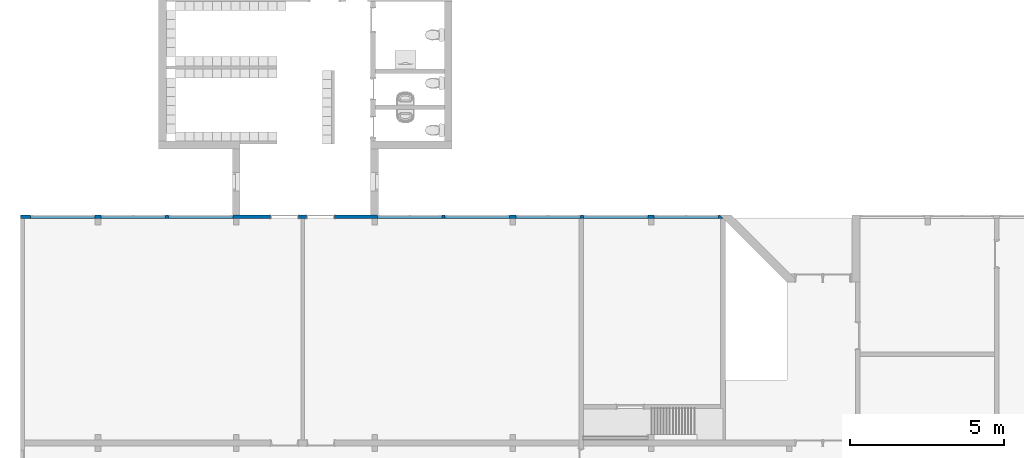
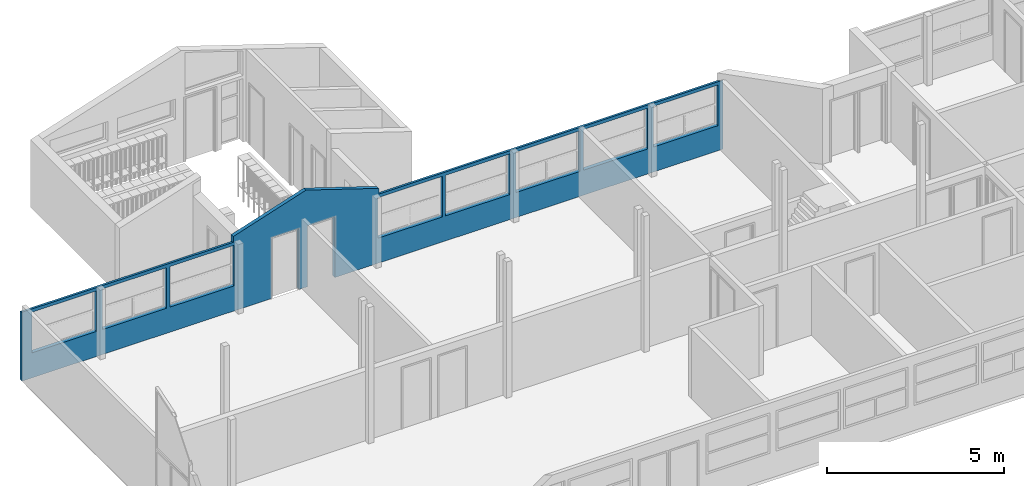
# One storey, part 15 of 48: 1 wall, 10 openings.
"""IFC2X3 building model written with IfcOpenShell, lengths in millimetres."""

from ifc_helpers import new_model, entity, si_unit, converted_unit, derived_unit, money_unit, direction, frame, origin_with_axes, place, context, subcontext, project, spatial, faceted_brep, material, type_object, element, save


model = new_model("IFC2X3")

# Units and contexts
model_context = context("Model", 3, precision=0.01, world=origin_with_axes(), true_north=direction((0.0, 1.0)))
body_context = subcontext(model_context, "Body", "Model", "MODEL_VIEW")
ifc_project = project(units=[si_unit("LENGTHUNIT", "METRE", prefix="MILLI"), si_unit("AREAUNIT", "SQUARE_METRE"), si_unit("VOLUMEUNIT", "CUBIC_METRE"), converted_unit("PLANEANGLEUNIT", "DEGREE", entity("IfcPlaneAngleMeasure", 0.0174532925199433), si_unit("PLANEANGLEUNIT", "RADIAN"), dimensions=[0, 0, 0, 0, 0, 0, 0]), money_unit("USD"), converted_unit("TIMEUNIT", "Year", entity("IfcTimeMeasure", 31557600.0), si_unit("TIMEUNIT", "SECOND"), dimensions=[0, 0, 1, 0, 0, 0, 0]), si_unit("MASSUNIT", "GRAM", prefix="KILO"), si_unit("THERMODYNAMICTEMPERATUREUNIT", "DEGREE_CELSIUS"), si_unit("LUMINOUSINTENSITYUNIT", "LUMEN"), si_unit("ENERGYUNIT", "JOULE", prefix="MEGA"), derived_unit("THERMALCONDUCTANCEUNIT", [(si_unit("POWERUNIT", "WATT"), 1), (si_unit("LENGTHUNIT", "METRE"), -1), (si_unit("THERMODYNAMICTEMPERATUREUNIT", "KELVIN"), -1)]), derived_unit("SPECIFICHEATCAPACITYUNIT", [(si_unit("ENERGYUNIT", "JOULE"), 1), (si_unit("MASSUNIT", "GRAM", prefix="KILO"), -1), (si_unit("THERMODYNAMICTEMPERATUREUNIT", "KELVIN"), -1)]), derived_unit("MASSDENSITYUNIT", [(si_unit("MASSUNIT", "GRAM", prefix="KILO"), 1), (si_unit("VOLUMEUNIT", "CUBIC_METRE"), -1)])], contexts=[model_context])

# Site, building, storey
site_placement = place(None, origin_with_axes())
site = spatial("IfcSite", under=ifc_project, at=site_placement, Name="Site", CompositionType="ELEMENT")
building_placement = place(site_placement, origin_with_axes())
building = spatial("IfcBuilding", under=site, at=building_placement, Name="Building", CompositionType="ELEMENT")
storey_placement = place(building_placement, frame((0.0, 0.0, 3300.0), z_axis=(0.0, 0.0, 1.0), x_axis=(1.0, 0.0, 0.0)))
storey = spatial("IfcBuildingStorey", under=building, at=storey_placement, Name="1 ETG", CompositionType="ELEMENT", Elevation=3300.0)

# Wall, openings
ifc_material = material(Name="GENERIC - STRUCTURAL")
wall_type = type_object("IfcWallType", Name="GENERIC - STRUCTURAL 120", PredefinedType="NOTDEFINED")
wall_placement = place(storey_placement, frame((-2400.26057248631, 21800.00030057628, 0.0), z_axis=(0.0, 0.0, 1.0), x_axis=(0.9999999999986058, -1.669870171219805e-06, 0.0)))
wall = element("IfcWall", 1, at=wall_placement, inside=storey, type_object=wall_type, material=ifc_material, Name="SW - 001", context=body_context, shape_type="Brep", body=[
    faceted_brep([(8020.72027930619, 120.0000000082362, 2100.0), (8020.72027930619, 120.000000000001, 0.0), (-120.0002003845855, 120.000000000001, 0.0), (-120.0002003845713, 120.000000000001, 2340.152322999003), (6775.260372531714, 120.0000000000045, 2340.156060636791), (6775.260372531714, 120.0000000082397, 2577.639475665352), (9150.260760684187, 120.0000000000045, 3349.323880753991), (11525.26115243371, 120.0000000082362, 2577.639475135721), (11525.26115235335, 120.000000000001, 2340.158635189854), (22637.08580500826, 120.000000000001, 2340.164657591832), (22637.08580500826, 120.000000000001, 0.0), (10089.43274139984, 120.000000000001, 0.0), (10089.43274139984, 120.0000000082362, 2100.0), (9189.43274139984, 120.0000000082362, 2100.0), (9189.43274139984, 120.000000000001, 0.0), (8920.72027930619, 120.000000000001, 0.0), (8920.72027930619, 120.0000000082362, 2100.0), (6800.260572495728, 120.000000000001, 865.018749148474), (6800.260572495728, 120.000000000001, 2265.018749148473), (4700.260572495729, 120.0000000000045, 2265.018749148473), (4700.260572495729, 120.0000000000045, 865.018749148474), (2500.260572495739, 120.000000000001, 865.018749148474), (4600.260572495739, 120.000000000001, 865.018749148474), (4600.260572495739, 120.000000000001, 2265.018749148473), (2500.260572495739, 120.000000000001, 2265.018749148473), (200.2605724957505, 120.0000000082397, 2265.018749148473), (200.2605724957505, 120.0000000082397, 865.018749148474), (2300.260572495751, 120.0000000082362, 865.018749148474), (2300.260572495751, 120.0000000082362, 2265.018749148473), (15800.2605725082, 120.000000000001, 2265.018749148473), (13700.2605725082, 120.0000000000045, 2265.018749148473), (13700.2605725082, 120.0000000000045, 865.018749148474), (15800.2605725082, 120.000000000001, 865.018749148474), (13600.2605725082, 120.000000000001, 865.018749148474), (13600.2605725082, 120.000000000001, 2265.018749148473), (11500.2605725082, 120.000000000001, 2265.018749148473), (11500.2605725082, 120.000000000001, 865.018749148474), (16000.26057250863, 120.0000000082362, 865.018749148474), (18100.26057250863, 120.0000000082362, 865.018749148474), (18100.26057250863, 120.0000000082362, 2265.018749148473), (16000.26057250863, 120.0000000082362, 2265.018749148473), (18200.26057251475, 120.0000000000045, 2265.018749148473), (18200.26057251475, 120.0000000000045, 865.018749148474), (20300.26057251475, 120.000000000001, 865.018749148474), (20300.26057251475, 120.000000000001, 2265.018749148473), (22600.26057251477, 120.000000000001, 2265.018749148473), (20500.26057251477, 120.000000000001, 2265.018749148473), (20500.26057251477, 120.000000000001, 865.018749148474), (22600.26057251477, 120.000000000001, 865.018749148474), (8020.72027930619, 0.0, 2100.0), (8020.72027930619, 0.0, 0.0), (-120.0000000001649, 0.0, 0.0), (-120.0000000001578, 0.0, 2379.102255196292), (6775.260572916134, 0.0, 2379.105992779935), (6775.260572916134, 0.0, 2577.639475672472), (6775.260512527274, 36.16380562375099, 2577.639475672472), (9150.260961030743, 0.0, 3349.323880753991), (11525.26135281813, 0.0, 2577.639475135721), (11525.26129241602, 36.17173916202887, 2577.639475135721), (11525.26135275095, 0.0, 2379.108567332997), (22757.08620577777, 0.0, 2379.114654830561), (22757.08620577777, 0.0, 0.0), (10089.43274139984, 0.0, 0.0), (10089.43274139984, 0.0, 2100.0), (9189.432741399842, 0.0, 2100.0), (9189.432741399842, 0.0, 0.0), (8920.72027930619, 0.0, 0.0), (8920.72027930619, 0.0, 2100.0), (6800.260572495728, 0.0, 865.018749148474), (6800.260572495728, 0.0, 2265.018749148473), (4700.260572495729, 0.0, 2265.018749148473), (4700.260572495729, 0.0, 865.018749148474), (2500.26057249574, 0.0, 865.018749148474), (4600.26057249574, 0.0, 865.018749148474), (4600.26057249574, 0.0, 2265.018749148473), (2500.26057249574, 0.0, 2265.018749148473), (200.2605724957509, 0.0, 865.018749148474), (200.2605724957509, 0.0, 2265.018749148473), (2300.260572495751, 0.0, 865.018749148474), (2300.260572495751, 0.0, 2265.018749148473), (15800.2605725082, 0.0, 2265.018749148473), (13700.2605725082, 0.0, 2265.018749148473), (13700.2605725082, 0.0, 865.018749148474), (15800.2605725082, 0.0, 865.018749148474), (13600.2605725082, 0.0, 865.018749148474), (13600.2605725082, 0.0, 2265.018749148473), (11500.2605725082, 0.0, 2265.018749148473), (11500.2605725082, 0.0, 865.018749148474), (16000.26057250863, 0.0, 865.018749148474), (18100.26057250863, 0.0, 865.018749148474), (18100.26057250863, 0.0, 2265.018749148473), (16000.26057250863, 0.0, 2265.018749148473), (18200.26057251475, 0.0, 865.018749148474), (18200.26057251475, 0.0, 2265.018749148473), (20300.26057251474, 0.0, 865.018749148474), (20300.26057251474, 0.0, 2265.018749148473), (22600.26057251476, 0.0, 2265.018749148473), (20500.26057251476, 0.0, 2265.018749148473), (20500.26057251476, 0.0, 865.018749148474), (22600.26057251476, 0.0, 865.018749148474)], [[[0, 1, 2, 3, 4, 5, 6, 7, 8, 9, 10, 11, 12, 13, 14, 15, 16], [17, 18, 19, 20], [21, 22, 23, 24], [25, 26, 27, 28], [29, 30, 31, 32], [33, 34, 35, 36], [37, 38, 39, 40], [41, 42, 43, 44], [45, 46, 47, 48]], [[1, 0, 49, 50]], [[1, 50, 51, 2]], [[3, 2, 51, 52]], [[3, 52, 53, 4]], [[54, 55, 5, 4, 53]], [[54, 56, 6, 5, 55]], [[57, 58, 7, 6, 56]], [[8, 7, 58, 57, 59]], [[60, 9, 8, 59]], [[60, 61, 10, 9]], [[11, 10, 61, 62]], [[11, 62, 63, 12]], [[12, 63, 64, 13]], [[13, 64, 65, 14]], [[66, 15, 14, 65]], [[16, 15, 66, 67]], [[0, 16, 67, 49]], [[17, 68, 69, 18]], [[18, 69, 70, 19]], [[19, 70, 71, 20]], [[20, 71, 68, 17]], [[22, 21, 72, 73]], [[23, 22, 73, 74]], [[24, 23, 74, 75]], [[21, 24, 75, 72]], [[76, 26, 25, 77]], [[78, 27, 26, 76]], [[79, 28, 27, 78]], [[77, 25, 28, 79]], [[80, 81, 30, 29]], [[81, 82, 31, 30]], [[82, 83, 32, 31]], [[83, 80, 29, 32]], [[33, 84, 85, 34]], [[34, 85, 86, 35]], [[35, 86, 87, 36]], [[36, 87, 84, 33]], [[38, 37, 88, 89]], [[39, 38, 89, 90]], [[40, 39, 90, 91]], [[37, 40, 91, 88]], [[92, 42, 41, 93]], [[94, 43, 42, 92]], [[95, 44, 43, 94]], [[93, 41, 44, 95]], [[96, 97, 46, 45]], [[97, 98, 47, 46]], [[98, 99, 48, 47]], [[99, 96, 45, 48]], [[67, 66, 65, 64, 63, 62, 61, 60, 59, 57, 56, 54, 53, 52, 51, 50, 49], [70, 69, 68, 71], [72, 75, 74, 73], [78, 76, 77, 79], [80, 83, 82, 81], [86, 85, 84, 87], [88, 91, 90, 89], [94, 92, 93, 95], [96, 99, 98, 97]]]),
])
opening_1_placement = place(wall_placement, frame((3550.260572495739, 0.0, 865.018749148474), z_axis=(0.0, 0.0, 1.0), x_axis=(1.0, 0.0, 0.0)))
element("IfcOpeningElement", 2, at=opening_1_placement, cuts=wall, Name="WD - 001", context=body_context, shape_type="Brep", body=[
    faceted_brep([(-1050.0, -1.038615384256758, 1400.0), (-1050.0, -1.038615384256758, 0.0), (1050.0, -1.038615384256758, 0.0), (1050.0, -1.038615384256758, 1400.0), (-1050.0, 121.0386153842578, 1400.0), (-1050.0, 121.0386153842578, 0.0), (1050.0, 121.0386153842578, 0.0), (1050.0, 121.0386153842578, 1400.0)], [[[0, 1, 2, 3]], [[4, 5, 1, 0]], [[5, 6, 2, 1]], [[6, 7, 3, 2]], [[7, 4, 0, 3]], [[6, 5, 4, 7]]]),
])
opening_2_placement = place(wall_placement, frame((1250.260572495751, 0.0, 865.018749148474), z_axis=(0.0, 0.0, 1.0), x_axis=(1.0, 0.0, 0.0)))
element("IfcOpeningElement", 3, at=opening_2_placement, cuts=wall, Name="WD - 001", context=body_context, shape_type="Brep", body=[
    faceted_brep([(-1050.0, -1.038615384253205, 1400.0), (-1050.0, -1.038615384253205, 0.0), (1050.0, -1.038615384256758, 0.0), (1050.0, -1.038615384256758, 1400.0), (-1050.0, 121.0386153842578, 1400.0), (-1050.0, 121.0386153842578, 0.0), (1050.0, 121.0386153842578, 0.0), (1050.0, 121.0386153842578, 1400.0)], [[[0, 1, 2, 3]], [[4, 5, 1, 0]], [[5, 6, 2, 1]], [[6, 7, 3, 2]], [[7, 4, 0, 3]], [[6, 5, 4, 7]]]),
])
opening_3_placement = place(wall_placement, frame((5750.260572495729, 0.0, 865.018749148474), z_axis=(0.0, 0.0, 1.0), x_axis=(1.0, 0.0, 0.0)))
element("IfcOpeningElement", 4, at=opening_3_placement, cuts=wall, Name="WD - 001", context=body_context, shape_type="Brep", body=[
    faceted_brep([(-1050.0, -1.038615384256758, 1400.0), (-1050.0, -1.038615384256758, 0.0), (1050.0, -1.038615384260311, 0.0), (1050.0, -1.038615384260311, 1400.0), (-1050.000000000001, 121.0386153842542, 1400.0), (-1050.000000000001, 121.0386153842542, 0.0), (1050.0, 121.0386153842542, 0.0), (1050.0, 121.0386153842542, 1400.0)], [[[0, 1, 2, 3]], [[4, 5, 1, 0]], [[5, 6, 2, 1]], [[6, 7, 3, 2]], [[7, 4, 0, 3]], [[6, 5, 4, 7]]]),
])
opening_4_placement = place(wall_placement, frame((12550.26057250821, 0.0, 865.018749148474), z_axis=(0.0, 0.0, 1.0), x_axis=(1.0, 0.0, 0.0)))
element("IfcOpeningElement", 5, at=opening_4_placement, cuts=wall, Name="WD - 001", context=body_context, shape_type="Brep", body=[
    faceted_brep([(-1050.000000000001, -1.038615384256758, 1400.0), (-1050.000000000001, -1.038615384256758, 0.0), (1049.999999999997, -1.038615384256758, 0.0), (1049.999999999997, -1.038615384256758, 1400.0), (-1050.000000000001, 121.0386153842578, 1400.0), (-1050.000000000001, 121.0386153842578, 0.0), (1049.999999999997, 121.0386153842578, 0.0), (1049.999999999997, 121.0386153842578, 1400.0)], [[[0, 1, 2, 3]], [[4, 5, 1, 0]], [[5, 6, 2, 1]], [[6, 7, 3, 2]], [[7, 4, 0, 3]], [[6, 5, 4, 7]]]),
])
opening_5_placement = place(wall_placement, frame((14750.2605725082, 0.0, 865.018749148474), z_axis=(0.0, 0.0, 1.0), x_axis=(1.0, 0.0, 0.0)))
element("IfcOpeningElement", 6, at=opening_5_placement, cuts=wall, Name="WD - 001", context=body_context, shape_type="Brep", body=[
    faceted_brep([(-1050.000000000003, -1.038615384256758, 1400.0), (-1050.000000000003, -1.038615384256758, 0.0), (1049.999999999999, -1.038615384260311, 0.0), (1049.999999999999, -1.038615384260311, 1400.0), (-1050.000000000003, 121.0386153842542, 1400.0), (-1050.000000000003, 121.0386153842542, 0.0), (1049.999999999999, 121.0386153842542, 0.0), (1049.999999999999, 121.0386153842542, 1400.0)], [[[0, 1, 2, 3]], [[4, 5, 1, 0]], [[5, 6, 2, 1]], [[6, 7, 3, 2]], [[7, 4, 0, 3]], [[6, 5, 4, 7]]]),
])
opening_6_placement = place(wall_placement, frame((19250.26057251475, 0.0, 865.018749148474), z_axis=(0.0, 0.0, 1.0), x_axis=(1.0, 0.0, 0.0)))
element("IfcOpeningElement", 7, at=opening_6_placement, cuts=wall, Name="WD - 001", context=body_context, shape_type="Brep", body=[
    faceted_brep([(-1049.999999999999, -1.038615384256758, 1400.0), (-1049.999999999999, -1.038615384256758, 0.0), (1050.000000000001, -1.038615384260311, 0.0), (1050.000000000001, -1.038615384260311, 1400.0), (-1049.999999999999, 121.0386153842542, 1400.0), (-1049.999999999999, 121.0386153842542, 0.0), (1050.000000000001, 121.0386153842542, 0.0), (1050.000000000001, 121.0386153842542, 1400.0)], [[[0, 1, 2, 3]], [[4, 5, 1, 0]], [[5, 6, 2, 1]], [[6, 7, 3, 2]], [[7, 4, 0, 3]], [[6, 5, 4, 7]]]),
])
opening_7_placement = place(wall_placement, frame((17050.26057250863, 0.0, 865.018749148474), z_axis=(0.0, 0.0, 1.0), x_axis=(1.0, 0.0, 0.0)))
element("IfcOpeningElement", 8, at=opening_7_placement, cuts=wall, Name="WD - 001", context=body_context, shape_type="Brep", body=[
    faceted_brep([(-1050.000000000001, -1.038615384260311, 1400.0), (-1050.000000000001, -1.038615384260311, 0.0), (1049.999999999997, -1.038615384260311, 0.0), (1049.999999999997, -1.038615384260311, 1400.0), (-1050.000000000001, 121.0386153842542, 1400.0), (-1050.000000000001, 121.0386153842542, 0.0), (1049.999999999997, 121.0386153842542, 0.0), (1049.999999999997, 121.0386153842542, 1400.0)], [[[0, 1, 2, 3]], [[4, 5, 1, 0]], [[5, 6, 2, 1]], [[6, 7, 3, 2]], [[7, 4, 0, 3]], [[6, 5, 4, 7]]]),
])
opening_8_placement = place(wall_placement, frame((21550.26057251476, 0.0, 865.018749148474), z_axis=(0.0, 0.0, 1.0), x_axis=(1.0, 0.0, 0.0)))
element("IfcOpeningElement", 9, at=opening_8_placement, cuts=wall, Name="WD - 001", context=body_context, shape_type="Brep", body=[
    faceted_brep([(-1050.000000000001, -1.038615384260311, 1400.0), (-1050.000000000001, -1.038615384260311, 0.0), (1050.000000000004, -1.038615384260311, 0.0), (1050.000000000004, -1.038615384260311, 1400.0), (-1050.000000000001, 121.0386153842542, 1400.0), (-1050.000000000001, 121.0386153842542, 0.0), (1050.000000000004, 121.0386153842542, 0.0), (1050.000000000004, 121.0386153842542, 1400.0)], [[[0, 1, 2, 3]], [[4, 5, 1, 0]], [[5, 6, 2, 1]], [[6, 7, 3, 2]], [[7, 4, 0, 3]], [[6, 5, 4, 7]]]),
])
opening_9_placement = place(wall_placement, frame((9639.43274139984, 0.0, 0.0), z_axis=(0.0, 0.0, 1.0), x_axis=(1.0, 0.0, 0.0)))
element("IfcOpeningElement", 10, at=opening_9_placement, cuts=wall, Name="DOO - 002", context=body_context, shape_type="Brep", body=[
    faceted_brep([(-450.0000000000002, 121.0386153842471, 2100.0), (449.9999999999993, 121.0386153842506, 2100.0), (449.9999999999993, 121.0386153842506, 0.0), (-450.0000000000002, 121.0386153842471, 0.0), (-487.0000000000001, 121.0386153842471, 0.0), (-487.0000000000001, 121.0386153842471, 2137.0), (486.9999999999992, 121.0386153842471, 2137.0), (486.9999999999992, 121.0386153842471, 0.0), (-450.0000000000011, 120.000000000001, 0.0), (449.9999999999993, 120.0000000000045, 0.0), (449.9999999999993, 0.0, 0.0), (449.9999999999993, -1.0386153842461, 0.0), (-450.0000000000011, -1.038615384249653, 0.0), (-450.0000000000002, 0.0, 0.0), (-487.0000000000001, 120.000000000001, 0.0), (-487.0000000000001, 120.000000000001, 2137.0), (486.9999999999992, 120.0000000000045, 2137.0), (486.9999999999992, 120.0000000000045, 0.0), (449.9999999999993, 120.0000000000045, 2100.0), (449.9999999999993, 0.0, 2100.0), (486.9999999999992, 0.0, 0.0), (486.9999999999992, -1.0386153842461, 0.0), (486.9999999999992, -1.0386153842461, 2137.0), (-487.000000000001, -1.038615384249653, 2137.0), (-487.000000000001, -1.038615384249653, 0.0), (-487.0000000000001, 0.0, 0.0), (-450.0000000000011, 120.000000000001, 2100.0), (-450.0000000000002, 0.0, 2100.0), (-487.0000000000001, 0.0, 2137.0), (486.9999999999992, 0.0, 2137.0)], [[[0, 1, 2, 3]], [[2, 1, 0, 3, 4, 5, 6, 7]], [[8, 3, 2, 9, 10, 11, 12, 13]], [[3, 8, 14, 4]], [[14, 15, 5, 4]], [[15, 16, 6, 5]], [[16, 17, 7, 6]], [[9, 2, 7, 17]], [[9, 18, 19, 10]], [[11, 10, 20, 21]], [[12, 11, 21, 22, 23, 24]], [[13, 12, 24, 25]], [[26, 8, 13, 27]], [[26, 18, 9, 17, 16, 15, 14, 8]], [[18, 26, 27, 19]], [[10, 19, 27, 13, 25, 28, 29, 20]], [[20, 29, 22, 21]], [[29, 28, 23, 22]], [[28, 25, 24, 23]]]),
])
opening_10_placement = place(wall_placement, frame((8470.72027930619, 0.0, 0.0), z_axis=(0.0, 0.0, 1.0), x_axis=(1.0, 0.0, 0.0)))
element("IfcOpeningElement", 11, at=opening_10_placement, cuts=wall, Name="DOO - 002", context=body_context, shape_type="Brep", body=[
    faceted_brep([(-450.0000000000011, 121.0386153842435, 2100.0), (450.0000000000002, 121.0386153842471, 2100.0), (450.0000000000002, 121.0386153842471, 0.0), (-450.0000000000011, 121.0386153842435, 0.0), (-487.0000000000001, 121.0386153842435, 0.0), (-487.0000000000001, 121.0386153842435, 2137.0), (486.9999999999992, 121.0386153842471, 2137.0), (486.9999999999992, 121.0386153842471, 0.0), (-450.0000000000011, 119.9999999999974, 0.0), (450.0000000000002, 120.000000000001, 0.0), (450.0000000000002, 0.0, 0.0), (450.0000000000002, -1.038615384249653, 0.0), (-450.0000000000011, -1.038615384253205, 0.0), (-450.0000000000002, 0.0, 0.0), (-487.0000000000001, 120.000000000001, 0.0), (-487.0000000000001, 120.000000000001, 2137.0), (486.9999999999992, 120.000000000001, 2137.0), (486.9999999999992, 120.000000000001, 0.0), (450.0000000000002, 120.000000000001, 2100.0), (450.0000000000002, 0.0, 2100.0), (486.9999999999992, 0.0, 0.0), (486.9999999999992, -1.038615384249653, 0.0), (486.9999999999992, -1.038615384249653, 2137.0), (-487.000000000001, -1.038615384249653, 2137.0), (-487.000000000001, -1.038615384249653, 0.0), (-487.000000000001, 0.0, 0.0), (-450.0000000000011, 119.9999999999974, 2100.0), (-450.0000000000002, 0.0, 2100.0), (-487.000000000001, 0.0, 2137.0), (486.9999999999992, 0.0, 2137.0)], [[[0, 1, 2, 3]], [[2, 1, 0, 3, 4, 5, 6, 7]], [[8, 3, 2, 9, 10, 11, 12, 13]], [[3, 8, 14, 4]], [[14, 15, 5, 4]], [[15, 16, 6, 5]], [[16, 17, 7, 6]], [[9, 2, 7, 17]], [[9, 18, 19, 10]], [[11, 10, 20, 21]], [[12, 11, 21, 22, 23, 24]], [[13, 12, 24, 25]], [[26, 8, 13, 27]], [[26, 18, 9, 17, 16, 15, 14, 8]], [[18, 26, 27, 19]], [[10, 19, 27, 13, 25, 28, 29, 20]], [[20, 29, 22, 21]], [[29, 28, 23, 22]], [[28, 25, 24, 23]]]),
])

save(model, "model.ifc")
